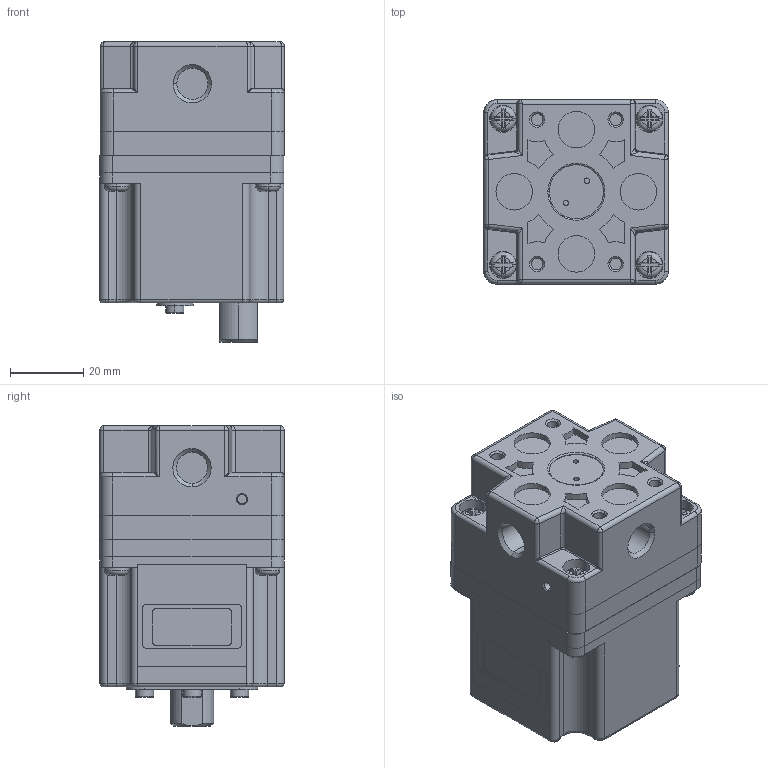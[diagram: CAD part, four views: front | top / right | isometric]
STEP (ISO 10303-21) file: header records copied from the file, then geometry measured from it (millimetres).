
FILE_DESCRIPTION (( 'STEP AP214' ), '1' );
FILE_NAME ('NITV1050-211BS.STEP', '2021-02-12T13:27:52', ( '' ), ( '' ), 'SwSTEP 2.0', 'SolidWorks 2021', '' );
FILE_SCHEMA (( 'AUTOMOTIVE_DESIGN' ));
Length unit declared in the file: millimetre
Products named in the file (3): NITV1050-211BS; NITV1050-211BS-Base; NITV1050-211BS-Cabezal
Assembly tree (2 placements, depth 2):
  NITV1050-211BS
    NITV1050-211BS-Base
    NITV1050-211BS-Cabezal
Bounding box: 50.6 x 50.4 x 82.25 mm (x, y, z)
Volume: 160074.9 mm3; surface area: 38322.9 mm2
Topology: 5 solids, 5 shells, 529 faces, 1292 edges, 795 vertices
Faces by surface type: plane 246, cylinder 184, torus 55, bspline 24, cone 20
Entity records: 21998 total; most frequent: CARTESIAN_POINT 3991, DIRECTION 2592, ORIENTED_EDGE 2544, EDGE_CURVE 1272, AXIS2_PLACEMENT_3D 972, VERTEX_POINT 795, LINE 648, VECTOR 648
